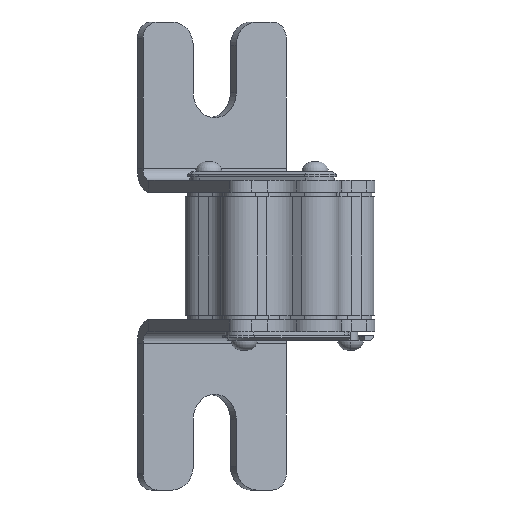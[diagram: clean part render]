
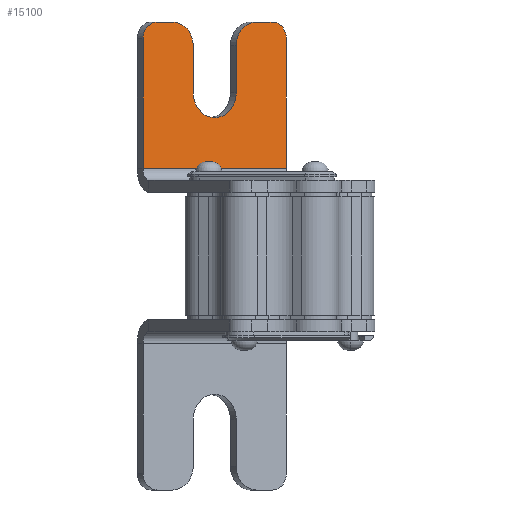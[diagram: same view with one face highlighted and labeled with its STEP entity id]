
A CAD part, front view. The second image highlights one B-rep face of the part: STEP entity #15100.
In plain terms, the highlighted planar face has unit normal (0.5, -0.866, 0).
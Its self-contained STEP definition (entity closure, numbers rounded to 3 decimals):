
#65 = CIRCLE ( 'NONE', #21372, 5. ) ;
#464 = CARTESIAN_POINT ( 'NONE',  ( -28.905, 15.066, 49.5 ) ) ;
#1343 = ORIENTED_EDGE ( 'NONE', *, *, #26124, .F. ) ;
#2759 = CARTESIAN_POINT ( 'NONE',  ( -9.203, 26.441, 44.5 ) ) ;
#3399 = CARTESIAN_POINT ( 'NONE',  ( -28.905, 15.066, 18.5 ) ) ;
#3443 = DIRECTION ( 'NONE',  ( 0.5, -0.866, 0. ) ) ;
#3793 = DIRECTION ( 'NONE',  ( 0.5, -0.866, 0. ) ) ;
#3905 = CIRCLE ( 'NONE', #5418, 5. ) ;
#4702 = CARTESIAN_POINT ( 'NONE',  ( 1.405, 32.566, 46. ) ) ;
#4723 = ORIENTED_EDGE ( 'NONE', *, *, #6769, .T. ) ;
#4851 = ORIENTED_EDGE ( 'NONE', *, *, #18181, .F. ) ;
#5293 = VERTEX_POINT ( 'NONE', #4702 ) ;
#5339 = PLANE ( 'NONE',  #22854 ) ;
#5418 = AXIS2_PLACEMENT_3D ( 'NONE', #30145, #3443, #16491 ) ;
#6038 = DIRECTION ( 'NONE',  ( 0., 0., 1. ) ) ;
#6169 = CIRCLE ( 'NONE', #28236, 3.5 ) ;
#6488 = DIRECTION ( 'NONE',  ( 0.866, 0.5, 0. ) ) ;
#6698 = DIRECTION ( 'NONE',  ( 0., 0., -1. ) ) ;
#6769 = EDGE_CURVE ( 'NONE', #25151, #12351, #65, .T. ) ;
#7138 = CIRCLE ( 'NONE', #12280, 5.25 ) ;
#7803 = VECTOR ( 'NONE', #8790, 1000. ) ;
#8522 = CARTESIAN_POINT ( 'NONE',  ( -9.203, 26.441, 34.5 ) ) ;
#8790 = DIRECTION ( 'NONE',  ( 0., 0., 1. ) ) ;
#9196 = CARTESIAN_POINT ( 'NONE',  ( -28.905, 15.066, 18.5 ) ) ;
#9609 = DIRECTION ( 'NONE',  ( 0.866, 0.5, 0. ) ) ;
#9812 = VERTEX_POINT ( 'NONE', #28548 ) ;
#10250 = LINE ( 'NONE', #30889, #18612 ) ;
#10861 = DIRECTION ( 'NONE',  ( 0., 0., 1. ) ) ;
#11378 = LINE ( 'NONE', #9196, #24453 ) ;
#11640 = CARTESIAN_POINT ( 'NONE',  ( -18.297, 21.191, 49.5 ) ) ;
#11808 = EDGE_CURVE ( 'NONE', #5293, #21493, #19764, .T. ) ;
#12280 = AXIS2_PLACEMENT_3D ( 'NONE', #23950, #20863, #28843 ) ;
#12351 = VERTEX_POINT ( 'NONE', #2759 ) ;
#12845 = EDGE_CURVE ( 'NONE', #26038, #27518, #7138, .T. ) ;
#13785 = LINE ( 'NONE', #22768, #31879 ) ;
#14000 = AXIS2_PLACEMENT_3D ( 'NONE', #31510, #18087, #24469 ) ;
#14453 = ORIENTED_EDGE ( 'NONE', *, *, #27523, .T. ) ;
#15050 = ORIENTED_EDGE ( 'NONE', *, *, #28483, .T. ) ;
#15100 = ADVANCED_FACE ( 'NONE', ( #30173 ), #5339, .T. ) ;
#15164 = CARTESIAN_POINT ( 'NONE',  ( 1.405, 32.566, 49.5 ) ) ;
#15330 = EDGE_CURVE ( 'NONE', #5293, #9812, #6169, .T. ) ;
#15840 = CARTESIAN_POINT ( 'NONE',  ( -28.905, 15.066, 46. ) ) ;
#16441 = CARTESIAN_POINT ( 'NONE',  ( -18.297, 21.191, 34.5 ) ) ;
#16491 = DIRECTION ( 'NONE',  ( 0., 0., 1. ) ) ;
#16783 = CARTESIAN_POINT ( 'NONE',  ( -4.873, 28.941, 49.5 ) ) ;
#16813 = CIRCLE ( 'NONE', #14000, 3.5 ) ;
#17646 = LINE ( 'NONE', #11640, #29006 ) ;
#18087 = DIRECTION ( 'NONE',  ( 0.5, -0.866, 0. ) ) ;
#18181 = EDGE_CURVE ( 'NONE', #28658, #26038, #17646, .T. ) ;
#18612 = VECTOR ( 'NONE', #9609, 1000. ) ;
#18976 = ORIENTED_EDGE ( 'NONE', *, *, #27290, .F. ) ;
#19430 = CARTESIAN_POINT ( 'NONE',  ( -18.297, 21.191, 44.5 ) ) ;
#19764 = LINE ( 'NONE', #15164, #27358 ) ;
#20443 = EDGE_CURVE ( 'NONE', #33652, #34347, #33735, .T. ) ;
#20808 = CARTESIAN_POINT ( 'NONE',  ( -25.874, 16.816, 49.5 ) ) ;
#20863 = DIRECTION ( 'NONE',  ( 0.5, -0.866, 0. ) ) ;
#21372 = AXIS2_PLACEMENT_3D ( 'NONE', #28858, #23614, #26285 ) ;
#21493 = VERTEX_POINT ( 'NONE', #26356 ) ;
#22057 = DIRECTION ( 'NONE',  ( 0.866, 0.5, 0. ) ) ;
#22576 = VERTEX_POINT ( 'NONE', #15840 ) ;
#22768 = CARTESIAN_POINT ( 'NONE',  ( -28.905, 15.066, 49.5 ) ) ;
#22854 = AXIS2_PLACEMENT_3D ( 'NONE', #464, #32696, #10861 ) ;
#23614 = DIRECTION ( 'NONE',  ( 0.5, -0.866, 0. ) ) ;
#23950 = CARTESIAN_POINT ( 'NONE',  ( -13.75, 23.816, 34.5 ) ) ;
#24453 = VECTOR ( 'NONE', #6488, 1000. ) ;
#24462 = CARTESIAN_POINT ( 'NONE',  ( -9.203, 26.441, 49.5 ) ) ;
#24469 = DIRECTION ( 'NONE',  ( 0., 0., 1. ) ) ;
#24612 = ORIENTED_EDGE ( 'NONE', *, *, #33285, .T. ) ;
#24666 = ORIENTED_EDGE ( 'NONE', *, *, #11808, .F. ) ;
#25151 = VERTEX_POINT ( 'NONE', #16783 ) ;
#26038 = VERTEX_POINT ( 'NONE', #16441 ) ;
#26124 = EDGE_CURVE ( 'NONE', #27518, #12351, #33411, .T. ) ;
#26285 = DIRECTION ( 'NONE',  ( 0., 0., 1. ) ) ;
#26356 = CARTESIAN_POINT ( 'NONE',  ( 1.405, 32.566, 18.5 ) ) ;
#26628 = VECTOR ( 'NONE', #22057, 1000. ) ;
#27290 = EDGE_CURVE ( 'NONE', #25151, #9812, #10250, .T. ) ;
#27358 = VECTOR ( 'NONE', #31307, 1000. ) ;
#27518 = VERTEX_POINT ( 'NONE', #8522 ) ;
#27523 = EDGE_CURVE ( 'NONE', #28658, #34347, #3905, .T. ) ;
#27756 = ORIENTED_EDGE ( 'NONE', *, *, #12845, .F. ) ;
#27876 = CARTESIAN_POINT ( 'NONE',  ( -1.626, 30.816, 46. ) ) ;
#28236 = AXIS2_PLACEMENT_3D ( 'NONE', #27876, #3793, #6038 ) ;
#28465 = ORIENTED_EDGE ( 'NONE', *, *, #20443, .F. ) ;
#28483 = EDGE_CURVE ( 'NONE', #33652, #22576, #16813, .T. ) ;
#28548 = CARTESIAN_POINT ( 'NONE',  ( -1.626, 30.816, 49.5 ) ) ;
#28658 = VERTEX_POINT ( 'NONE', #19430 ) ;
#28843 = DIRECTION ( 'NONE',  ( 0., 0., 1. ) ) ;
#28858 = CARTESIAN_POINT ( 'NONE',  ( -4.873, 28.941, 44.5 ) ) ;
#29006 = VECTOR ( 'NONE', #6698, 1000. ) ;
#29279 = VERTEX_POINT ( 'NONE', #3399 ) ;
#30145 = CARTESIAN_POINT ( 'NONE',  ( -22.627, 18.691, 44.5 ) ) ;
#30173 = FACE_OUTER_BOUND ( 'NONE', #32979, .T. ) ;
#30470 = EDGE_CURVE ( 'NONE', #22576, #29279, #13785, .T. ) ;
#30889 = CARTESIAN_POINT ( 'NONE',  ( -28.905, 15.066, 49.5 ) ) ;
#31101 = DIRECTION ( 'NONE',  ( 0., 0., -1. ) ) ;
#31307 = DIRECTION ( 'NONE',  ( 0., 0., -1. ) ) ;
#31510 = CARTESIAN_POINT ( 'NONE',  ( -25.874, 16.816, 46. ) ) ;
#31879 = VECTOR ( 'NONE', #31101, 1000. ) ;
#31945 = ORIENTED_EDGE ( 'NONE', *, *, #30470, .T. ) ;
#32696 = DIRECTION ( 'NONE',  ( 0.5, -0.866, 0. ) ) ;
#32961 = CARTESIAN_POINT ( 'NONE',  ( -28.905, 15.066, 49.5 ) ) ;
#32969 = CARTESIAN_POINT ( 'NONE',  ( -22.627, 18.691, 49.5 ) ) ;
#32979 = EDGE_LOOP ( 'NONE', ( #4851, #14453, #28465, #15050, #31945, #24612, #24666, #33544, #18976, #4723, #1343, #27756 ) ) ;
#33285 = EDGE_CURVE ( 'NONE', #29279, #21493, #11378, .T. ) ;
#33411 = LINE ( 'NONE', #24462, #7803 ) ;
#33544 = ORIENTED_EDGE ( 'NONE', *, *, #15330, .T. ) ;
#33652 = VERTEX_POINT ( 'NONE', #20808 ) ;
#33735 = LINE ( 'NONE', #32961, #26628 ) ;
#34347 = VERTEX_POINT ( 'NONE', #32969 ) ;
